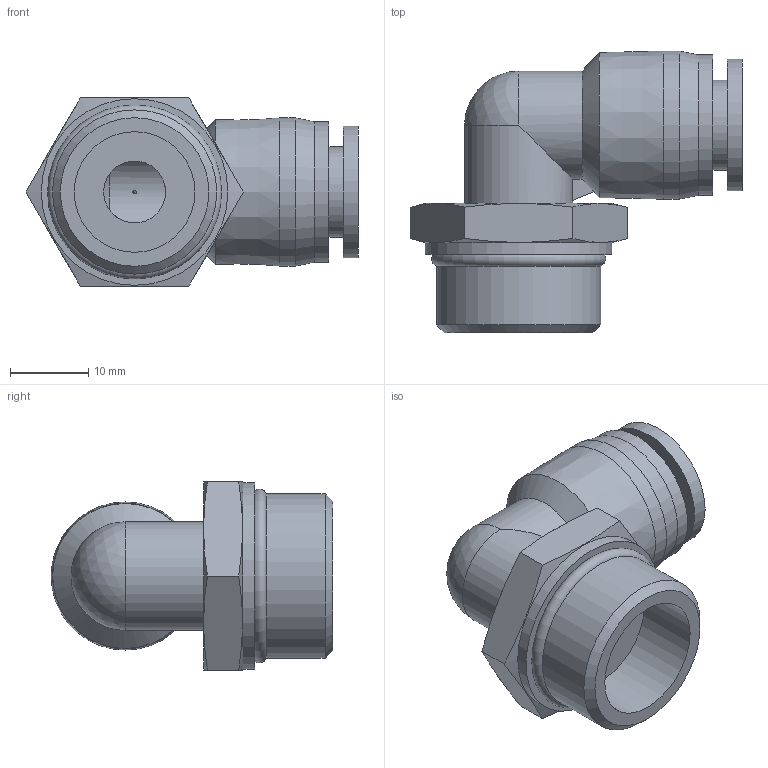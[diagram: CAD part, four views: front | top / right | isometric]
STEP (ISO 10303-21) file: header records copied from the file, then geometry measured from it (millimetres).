
FILE_DESCRIPTION(/* description */ (''),/* implementation_level */ '2;1');
FILE_NAME(/* name */ 'S:\_Tecnico\ArchivioUT\_Disegni3D ingombri\DISEGNI 3D per ingombri\RP\RP 72\RP721210.stp',/* time_stamp */ '2019-08-08T09:12:28+02:00',/* author */ ('ufficiotecnico3'),/* organization */ (''),/* preprocessor_version */ 'ST-DEVELOPER v18',/* originating_system */ 'Autodesk Inventor 2020',/* authorisation */ '');
FILE_SCHEMA (('AUTOMOTIVE_DESIGN { 1 0 10303 214 3 1 1 }'));
Length unit declared in the file: millimetre
Products named in the file (1): RP721210
Bounding box: 42.36 x 35.95 x 24 mm (x, y, z)
Volume: 9421 mm3; surface area: 6362.4 mm2
Topology: 1 solids, 1 shells, 49 faces, 126 edges, 85 vertices
Faces by surface type: plane 21, cone 13, cylinder 12, torus 2, sphere 1
Full cylindrical faces by diameter (mm): 7.9 x1, 10 x1, 11.5 x1, 13.8 x1, 15.4 x1, 16.8 x1, 17.9 x1, 18.5 x1, 18.9 x1, 20.955 x1, 23.8 x1
Entity records: 1636 total; most frequent: CARTESIAN_POINT 397, DIRECTION 260, ORIENTED_EDGE 248, EDGE_CURVE 124, AXIS2_PLACEMENT_3D 113, VERTEX_POINT 85, CIRCLE 61, EDGE_LOOP 60
